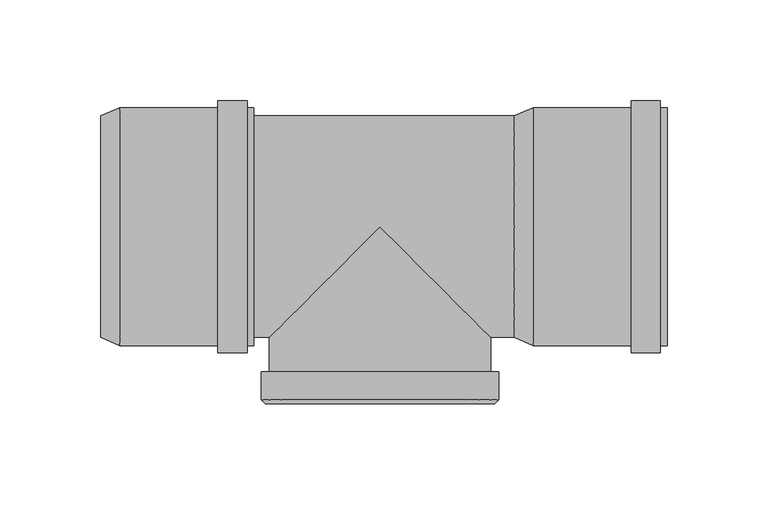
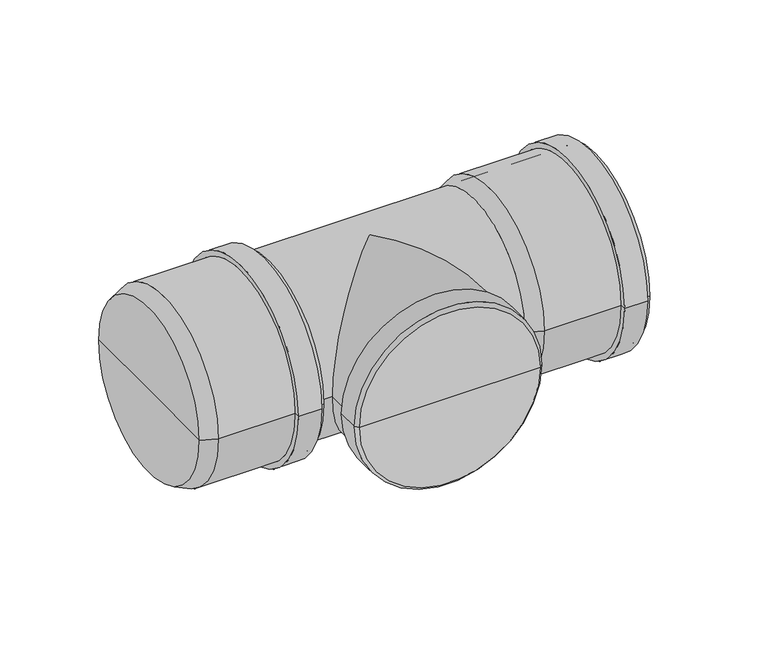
"""IFC4 building model written with IfcOpenShell, lengths in millimetres: pipe fitting geometry, pf_HTRE : pf_HTRE."""

from ifc_helpers import new_model, si_unit, frame, origin, place, context, project, spatial, polyline, circle_curve, ellipse_curve, source, transform, mapped, element, save
from ifc_brep_helpers import plane_surface, cylinder_surface, revolved_surface, advanced_brep


def pipe_fitting_702bc343(model_context):
    return source(origin(), model_context, "Body", "AdvancedBrep", [
        advanced_brep(
        [(66.6, -55.0, 0.0), (66.6, 55.0, 0.0), (76.1, 59.1, 0.0), (76.1, -59.1, 0.0), (66.6, 0.0, 0.0), (142.6, -59.1, 0.0), (142.6, 59.1, 0.0), (142.6, 55.0, 0.0), (142.6, -55.0, 0.0), (139.2, -59.1, 0.0), (139.2, 59.1, 0.0), (139.2, -62.5, 0.0), (139.2, 62.5, 0.0), (124.7, -62.5, 0.0), (124.7, 62.5, 0.0), (124.7, -59.1, 0.0), (124.7, 59.1, 0.0), (76.1, -55.0, 0.0), (76.1, 55.0, 0.0), (76.1, 0.0, 0.0)],
        [
            (0, 1, circle_curve(frame((66.6, 0.0, 0.0), z_axis=(1.0, 0.0, 0.0), x_axis=(0.0, 1.0, 0.0)), 55.0)),
            (1, 2),
            (2, 3, circle_curve(frame((76.1, 0.0, 0.0), z_axis=(-1.0, 0.0, 0.0), x_axis=(0.0, 1.0, 0.0)), 59.1)),
            (3, 0),
            (1, 0, circle_curve(frame((66.6, 0.0, 0.0), z_axis=(1.0, 0.0, 0.0), x_axis=(0.0, 1.0, 0.0)), 55.0)),
            (3, 2, circle_curve(frame((76.1, 0.0, 0.0), z_axis=(-1.0, 0.0, 0.0), x_axis=(0.0, 1.0, 0.0)), 59.1)),
            (4, 1),
            (0, 4),
            (5, 6, circle_curve(frame((142.6, 0.0, 0.0), z_axis=(1.0, 0.0, 0.0), x_axis=(0.0, 1.0, 0.0)), 59.1)),
            (6, 7),
            (7, 8, circle_curve(frame((142.6, 0.0, 0.0), z_axis=(-1.0, 0.0, 0.0), x_axis=(0.0, 1.0, 0.0)), 55.0)),
            (8, 5),
            (6, 5, circle_curve(frame((142.6, 0.0, 0.0), z_axis=(1.0, 0.0, 0.0), x_axis=(0.0, 1.0, 0.0)), 59.1)),
            (8, 7, circle_curve(frame((142.6, 0.0, 0.0), z_axis=(-1.0, 0.0, 0.0), x_axis=(0.0, 1.0, 0.0)), 55.0)),
            (9, 10, circle_curve(frame((139.2, 0.0, 0.0), z_axis=(1.0, 0.0, 0.0), x_axis=(0.0, 1.0, 0.0)), 59.1)),
            (10, 6),
            (5, 9),
            (10, 9, circle_curve(frame((139.2, 0.0, 0.0), z_axis=(1.0, 0.0, 0.0), x_axis=(0.0, 1.0, 0.0)), 59.1)),
            (11, 12, circle_curve(frame((139.2, 0.0, 0.0), z_axis=(1.0, 0.0, 0.0), x_axis=(0.0, 1.0, 0.0)), 62.5)),
            (12, 10),
            (9, 11),
            (12, 11, circle_curve(frame((139.2, 0.0, 0.0), z_axis=(1.0, 0.0, 0.0), x_axis=(0.0, 1.0, 0.0)), 62.5)),
            (13, 14, circle_curve(frame((124.7, 0.0, 0.0), z_axis=(1.0, 0.0, 0.0), x_axis=(0.0, 1.0, 0.0)), 62.5)),
            (14, 12),
            (11, 13),
            (14, 13, circle_curve(frame((124.7, 0.0, 0.0), z_axis=(1.0, 0.0, 0.0), x_axis=(0.0, 1.0, 0.0)), 62.5)),
            (15, 16, circle_curve(frame((124.7, 0.0, 0.0), z_axis=(1.0, 0.0, 0.0), x_axis=(0.0, 1.0, 0.0)), 59.1)),
            (16, 14),
            (13, 15),
            (16, 15, circle_curve(frame((124.7, 0.0, 0.0), z_axis=(1.0, 0.0, 0.0), x_axis=(0.0, 1.0, 0.0)), 59.1)),
            (2, 16),
            (15, 3),
            (17, 18, circle_curve(frame((76.1, 0.0, 0.0), z_axis=(1.0, 0.0, 0.0), x_axis=(0.0, 1.0, 0.0)), 55.0)),
            (18, 19),
            (19, 17),
            (18, 17, circle_curve(frame((76.1, 0.0, 0.0), z_axis=(1.0, 0.0, 0.0), x_axis=(0.0, 1.0, 0.0)), 55.0)),
            (7, 18),
            (17, 8),
        ],
        [
            revolved_surface(polyline([(76.1, 59.1, 0.0), (66.6, 55.0, 0.0)]), (66.6, 0.0, 0.0), (-1.0, 0.0, 0.0)),
            plane_surface(frame((66.6, 0.0, 0.0), z_axis=(-1.0, 0.0, 0.0), x_axis=(0.0, 1.0, 0.0))),
            plane_surface(frame((142.6, 0.0, 0.0), z_axis=(1.0, 0.0, 0.0), x_axis=(0.0, 1.0, 0.0))),
            cylinder_surface(frame((66.6, 0.0, 0.0), z_axis=(-1.0, 0.0, 0.0), x_axis=(0.0, 1.0, 0.0)), 59.1),
            plane_surface(frame((139.2, 0.0, 0.0), z_axis=(1.0, 0.0, 0.0), x_axis=(0.0, 1.0, 0.0))),
            cylinder_surface(frame((66.6, 0.0, 0.0), z_axis=(-1.0, 0.0, 0.0), x_axis=(0.0, 1.0, 0.0)), 62.5),
            plane_surface(frame((124.7, 0.0, 0.0), z_axis=(-1.0, 0.0, 0.0), x_axis=(0.0, 1.0, 0.0))),
            plane_surface(frame((76.1, 0.0, 0.0), z_axis=(1.0, 0.0, 0.0), x_axis=(0.0, 1.0, 0.0))),
            revolved_surface(polyline([(76.1, 55.0, 0.0), (142.6, 55.0, 0.0)]), (66.6, 0.0, 0.0), (-1.0, 0.0, 0.0)),
        ],
        [
            (0, [[1, 2, 3, 4]]),
            (0, [[5, -4, 6, -2]]),
            (1, [[7, -1, 8]]),
            (1, [[-8, -5, -7]]),
            (2, [[9, 10, 11, 12]]),
            (2, [[13, -12, 14, -10]]),
            (3, [[15, 16, -9, 17]]),
            (3, [[18, -17, -13, -16]]),
            (4, [[19, 20, -15, 21]]),
            (4, [[22, -21, -18, -20]]),
            (5, [[23, 24, -19, 25]]),
            (5, [[26, -25, -22, -24]]),
            (6, [[27, 28, -23, 29]]),
            (6, [[30, -29, -26, -28]]),
            (3, [[-3, 31, -27, 32]]),
            (3, [[-6, -32, -30, -31]]),
            (7, [[33, 34, 35]]),
            (7, [[36, -35, -34]]),
            (8, [[-11, 37, -33, 38]]),
            (8, [[-14, -38, -36, -37]]),
        ],
    ),
        advanced_brep(
        [(-138.6, -55.0, 0.0), (-138.6, 55.0, 0.0), (-129.1, 59.1, 0.0), (-129.1, -59.1, 0.0), (-138.6, 0.0, 0.0), (-62.6, -59.1, 0.0), (-62.6, 59.1, 0.0), (-62.6, 55.0, 0.0), (-62.6, -55.0, 0.0), (-66.0, -59.1, 0.0), (-66.0, 59.1, 0.0), (-66.0, -62.5, 0.0), (-66.0, 62.5, 0.0), (-80.5, -62.5, 0.0), (-80.5, 62.5, 0.0), (-80.5, -59.1, 0.0), (-80.5, 59.1, 0.0), (-129.1, -55.0, 0.0), (-129.1, 55.0, 0.0), (-129.1, 0.0, 0.0)],
        [
            (0, 1, circle_curve(frame((-138.6, 0.0, 0.0), z_axis=(1.0, 0.0, 0.0), x_axis=(0.0, 1.0, 0.0)), 55.0)),
            (1, 2),
            (2, 3, circle_curve(frame((-129.1, 0.0, 0.0), z_axis=(-1.0, 0.0, 0.0), x_axis=(0.0, 1.0, 0.0)), 59.1)),
            (3, 0),
            (1, 0, circle_curve(frame((-138.6, 0.0, 0.0), z_axis=(1.0, 0.0, 0.0), x_axis=(0.0, 1.0, 0.0)), 55.0)),
            (3, 2, circle_curve(frame((-129.1, 0.0, 0.0), z_axis=(-1.0, 0.0, 0.0), x_axis=(0.0, 1.0, 0.0)), 59.1)),
            (4, 1),
            (0, 4),
            (5, 6, circle_curve(frame((-62.6, 0.0, 0.0), z_axis=(1.0, 0.0, 0.0), x_axis=(0.0, 1.0, 0.0)), 59.1)),
            (6, 7),
            (7, 8, circle_curve(frame((-62.6, 0.0, 0.0), z_axis=(-1.0, 0.0, 0.0), x_axis=(0.0, 1.0, 0.0)), 55.0)),
            (8, 5),
            (6, 5, circle_curve(frame((-62.6, 0.0, 0.0), z_axis=(1.0, 0.0, 0.0), x_axis=(0.0, 1.0, 0.0)), 59.1)),
            (8, 7, circle_curve(frame((-62.6, 0.0, 0.0), z_axis=(-1.0, 0.0, 0.0), x_axis=(0.0, 1.0, 0.0)), 55.0)),
            (9, 10, circle_curve(frame((-66.0, 0.0, 0.0), z_axis=(1.0, 0.0, 0.0), x_axis=(0.0, 1.0, 0.0)), 59.1)),
            (10, 6),
            (5, 9),
            (10, 9, circle_curve(frame((-66.0, 0.0, 0.0), z_axis=(1.0, 0.0, 0.0), x_axis=(0.0, 1.0, 0.0)), 59.1)),
            (11, 12, circle_curve(frame((-66.0, 0.0, 0.0), z_axis=(1.0, 0.0, 0.0), x_axis=(0.0, 1.0, 0.0)), 62.5)),
            (12, 10),
            (9, 11),
            (12, 11, circle_curve(frame((-66.0, 0.0, 0.0), z_axis=(1.0, 0.0, 0.0), x_axis=(0.0, 1.0, 0.0)), 62.5)),
            (13, 14, circle_curve(frame((-80.5, 0.0, 0.0), z_axis=(1.0, 0.0, 0.0), x_axis=(0.0, 1.0, 0.0)), 62.5)),
            (14, 12),
            (11, 13),
            (14, 13, circle_curve(frame((-80.5, 0.0, 0.0), z_axis=(1.0, 0.0, 0.0), x_axis=(0.0, 1.0, 0.0)), 62.5)),
            (15, 16, circle_curve(frame((-80.5, 0.0, 0.0), z_axis=(1.0, 0.0, 0.0), x_axis=(0.0, 1.0, 0.0)), 59.1)),
            (16, 14),
            (13, 15),
            (16, 15, circle_curve(frame((-80.5, 0.0, 0.0), z_axis=(1.0, 0.0, 0.0), x_axis=(0.0, 1.0, 0.0)), 59.1)),
            (2, 16),
            (15, 3),
            (17, 18, circle_curve(frame((-129.1, 0.0, 0.0), z_axis=(1.0, 0.0, 0.0), x_axis=(0.0, 1.0, 0.0)), 55.0)),
            (18, 19),
            (19, 17),
            (18, 17, circle_curve(frame((-129.1, 0.0, 0.0), z_axis=(1.0, 0.0, 0.0), x_axis=(0.0, 1.0, 0.0)), 55.0)),
            (7, 18),
            (17, 8),
        ],
        [
            revolved_surface(polyline([(-129.1, 59.1, 0.0), (-138.6, 55.0, 0.0)]), (-138.6, 0.0, 0.0), (-1.0, 0.0, 0.0)),
            plane_surface(frame((-138.6, 0.0, 0.0), z_axis=(-1.0, 0.0, 0.0), x_axis=(0.0, 1.0, 0.0))),
            plane_surface(frame((-62.6, 0.0, 0.0), z_axis=(1.0, 0.0, 0.0), x_axis=(0.0, 1.0, 0.0))),
            cylinder_surface(frame((-138.6, 0.0, 0.0), z_axis=(-1.0, 0.0, 0.0), x_axis=(0.0, 1.0, 0.0)), 59.1),
            plane_surface(frame((-66.0, 0.0, 0.0), z_axis=(1.0, 0.0, 0.0), x_axis=(0.0, 1.0, 0.0))),
            cylinder_surface(frame((-138.6, 0.0, 0.0), z_axis=(-1.0, 0.0, 0.0), x_axis=(0.0, 1.0, 0.0)), 62.5),
            plane_surface(frame((-80.5, 0.0, 0.0), z_axis=(-1.0, 0.0, 0.0), x_axis=(0.0, 1.0, 0.0))),
            plane_surface(frame((-129.1, 0.0, 0.0), z_axis=(1.0, 0.0, 0.0), x_axis=(0.0, 1.0, 0.0))),
            revolved_surface(polyline([(-129.1, 55.0, 0.0), (-62.599999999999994, 55.0, 0.0)]), (-138.6, 0.0, 0.0), (-1.0, 0.0, 0.0)),
        ],
        [
            (0, [[1, 2, 3, 4]]),
            (0, [[5, -4, 6, -2]]),
            (1, [[7, -1, 8]]),
            (1, [[-8, -5, -7]]),
            (2, [[9, 10, 11, 12]]),
            (2, [[13, -12, 14, -10]]),
            (3, [[15, 16, -9, 17]]),
            (3, [[18, -17, -13, -16]]),
            (4, [[19, 20, -15, 21]]),
            (4, [[22, -21, -18, -20]]),
            (5, [[23, 24, -19, 25]]),
            (5, [[26, -25, -22, -24]]),
            (6, [[27, 28, -23, 29]]),
            (6, [[30, -29, -26, -28]]),
            (3, [[-3, 31, -27, 32]]),
            (3, [[-6, -32, -30, -31]]),
            (7, [[33, 34, 35]]),
            (7, [[36, -35, -34]]),
            (8, [[-11, 37, -33, 38]]),
            (8, [[-14, -38, -36, -37]]),
        ],
    ),
        advanced_brep(
        [(0.0, -83.5, 0.0), (55.0, -83.5, 0.0), (-55.0, -83.5, 0.0), (-56.8547233, -87.9866797, 0.0), (56.8547233, -87.9866797, 0.0), (0.0, -87.9866797, 0.0), (-59.0, -85.841403, 0.0), (59.0, -85.841403, 0.0), (-59.0, -71.91835, 0.0), (59.0, -71.91835, 0.0), (-55.0, -71.91835, 0.0), (55.0, -71.91835, 0.0)],
        [
            (0, 1),
            (1, 2, circle_curve(frame((0.0, -83.5, 0.0), z_axis=(0.0, 1.0, 0.0), x_axis=(1.0, 0.0, 0.0)), 55.0)),
            (2, 0),
            (2, 1, circle_curve(frame((0.0, -83.5, 0.0), z_axis=(0.0, 1.0, 0.0), x_axis=(1.0, 0.0, 0.0)), 55.0)),
            (3, 4, circle_curve(frame((0.0, -87.9866797, 0.0), z_axis=(0.0, -1.0, 0.0), x_axis=(1.0, 0.0, 0.0)), 56.8547233)),
            (4, 5),
            (5, 3),
            (4, 3, circle_curve(frame((0.0, -87.9866797, 0.0), z_axis=(0.0, -1.0, 0.0), x_axis=(1.0, 0.0, 0.0)), 56.8547233)),
            (6, 7, circle_curve(frame((0.0, -85.841403, 0.0), z_axis=(0.0, -1.0, 0.0), x_axis=(1.0, 0.0, 0.0)), 59.0)),
            (7, 4),
            (3, 6),
            (7, 6, circle_curve(frame((0.0, -85.841403, 0.0), z_axis=(0.0, -1.0, 0.0), x_axis=(1.0, 0.0, 0.0)), 59.0)),
            (8, 9, circle_curve(frame((0.0, -71.91835, 0.0), z_axis=(0.0, -1.0, 0.0), x_axis=(1.0, 0.0, 0.0)), 59.0)),
            (9, 7),
            (6, 8),
            (9, 8, circle_curve(frame((0.0, -71.91835, 0.0), z_axis=(0.0, -1.0, 0.0), x_axis=(1.0, 0.0, 0.0)), 59.0)),
            (10, 11, circle_curve(frame((0.0, -71.91835, 0.0), z_axis=(0.0, -1.0, 0.0), x_axis=(1.0, 0.0, 0.0)), 55.0)),
            (11, 9),
            (8, 10),
            (11, 10, circle_curve(frame((0.0, -71.91835, 0.0), z_axis=(0.0, -1.0, 0.0), x_axis=(1.0, 0.0, 0.0)), 55.0)),
            (1, 11),
            (10, 2),
        ],
        [
            plane_surface(frame((0.0, -83.5, 0.0), z_axis=(0.0, 1.0, 0.0), x_axis=(1.0, 0.0, 0.0))),
            plane_surface(frame((0.0, -87.9866797, 0.0), z_axis=(0.0, -1.0, 0.0), x_axis=(1.0, 0.0, 0.0))),
            revolved_surface(polyline([(56.8547233, -87.9866797, 0.0), (59.0, -85.841403, 0.0)]), (0.0, 0.0, 0.0), (0.0, 1.0, 0.0)),
            cylinder_surface(frame((0.0, 0.0, 0.0), z_axis=(0.0, 1.0, 0.0), x_axis=(1.0, 0.0, 0.0)), 59.0),
            plane_surface(frame((0.0, -71.91835, 0.0), z_axis=(0.0, 1.0, 0.0), x_axis=(1.0, 0.0, 0.0))),
            revolved_surface(polyline([(55.0, -71.91835, 0.0), (55.0, -83.5, 0.0)]), (0.0, 0.0, 0.0), (0.0, 1.0, 0.0)),
        ],
        [
            (0, [[1, 2, 3]]),
            (0, [[-3, 4, -1]]),
            (1, [[5, 6, 7]]),
            (1, [[8, -7, -6]]),
            (2, [[9, 10, -5, 11]]),
            (2, [[12, -11, -8, -10]]),
            (3, [[13, 14, -9, 15]]),
            (3, [[16, -15, -12, -14]]),
            (4, [[17, 18, -13, 19]]),
            (4, [[20, -19, -16, -18]]),
            (5, [[-2, 21, -17, 22]]),
            (5, [[-4, -22, -20, -21]]),
        ],
    ),
        advanced_brep(
        [(-62.6, -55.0, 0.0), (-62.6, 55.0, 0.0), (66.6, -55.0, 0.0), (66.6, 55.0, 0.0), (-55.0, -55.0, 0.0), (0.0, 0.0, 55.0), (55.0, -55.0, 0.0), (0.0, 0.0, -55.0), (-55.0, -83.5, 0.0), (55.0, -83.5, 0.0)],
        [
            (0, 1, circle_curve(frame((-62.6, 0.0, 0.0), z_axis=(-1.0, 0.0, 0.0), x_axis=(0.0, 1.0, 0.0)), 55.0)),
            (1, 0, circle_curve(frame((-62.6, 0.0, 0.0), z_axis=(-1.0, 0.0, 0.0), x_axis=(0.0, 1.0, 0.0)), 55.0)),
            (2, 3, circle_curve(frame((66.6, 0.0, 0.0), z_axis=(1.0, 0.0, 0.0), x_axis=(0.0, 1.0, 0.0)), 55.0)),
            (3, 2, circle_curve(frame((66.6, 0.0, 0.0), z_axis=(1.0, 0.0, 0.0), x_axis=(0.0, 1.0, 0.0)), 55.0)),
            (0, 4),
            (4, 5, ellipse_curve(frame((0.0, 0.0, 0.0), z_axis=(-0.7071067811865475, 0.7071067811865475, 0.0), x_axis=(-0.7071067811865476, -0.7071067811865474, 0.0)), 77.7817459, 55.0)),
            (5, 6, ellipse_curve(frame((0.0, 0.0, 0.0), z_axis=(0.7071067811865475, 0.7071067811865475, 0.0), x_axis=(-0.7071067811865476, 0.7071067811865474, 0.0)), 77.7817459, 55.0)),
            (6, 2),
            (3, 1),
            (6, 7, ellipse_curve(frame((0.0, 0.0, 0.0), z_axis=(0.7071067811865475, 0.7071067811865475, 0.0), x_axis=(-0.7071067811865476, 0.7071067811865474, 0.0)), 77.7817459, 55.0)),
            (7, 4, ellipse_curve(frame((0.0, 0.0, 0.0), z_axis=(-0.7071067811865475, 0.7071067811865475, 0.0), x_axis=(-0.7071067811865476, -0.7071067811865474, 0.0)), 77.7817459, 55.0)),
            (8, 9, circle_curve(frame((0.0, -83.5, 0.0), z_axis=(0.0, -1.0, 0.0), x_axis=(1.0, 0.0, 0.0)), 55.0)),
            (9, 8, circle_curve(frame((0.0, -83.5, 0.0), z_axis=(0.0, -1.0, 0.0), x_axis=(1.0, 0.0, 0.0)), 55.0)),
            (9, 6),
            (4, 8),
        ],
        [
            plane_surface(frame((-62.6, 0.0, 0.0), z_axis=(-1.0, 0.0, 0.0), x_axis=(0.0, 0.0, 1.0))),
            plane_surface(frame((66.6, 0.0, 0.0), z_axis=(1.0, 0.0, 0.0), x_axis=(0.0, 0.0, 1.0))),
            cylinder_surface(frame((-62.6, 0.0, 0.0), z_axis=(-1.0, 0.0, 0.0), x_axis=(0.0, 1.0, 0.0)), 55.0),
            plane_surface(frame((0.0, -83.5, 0.0), z_axis=(0.0, -1.0, 0.0), x_axis=(0.0, 0.0, 1.0))),
            cylinder_surface(frame((0.0, 0.0, 0.0), z_axis=(0.0, 1.0, 0.0), x_axis=(1.0, 0.0, 0.0)), 55.0),
        ],
        [
            (0, [[1, 2]]),
            (1, [[3, 4]]),
            (2, [[-1, 5, 6, 7, 8, -4, 9]]),
            (2, [[-2, -9, -3, -8, 10, 11, -5]]),
            (3, [[12, 13]]),
            (4, [[-13, 14, -7, -6, 15]]),
            (4, [[-12, -15, -11, -10, -14]]),
        ],
    ),
    ])


if __name__ == "__main__":
    model = new_model("IFC4")
    model_context = context("Model", 3, world=origin())
    ifc_project = project(units=[si_unit("LENGTHUNIT", "METRE", prefix="MILLI")], contexts=[model_context])
    site = spatial("IfcSite", under=ifc_project)
    building = spatial("IfcBuilding", under=site)
    placement = place(None, origin())
    pipe_fitting_shape = pipe_fitting_702bc343(model_context)
    element("IfcPipeFitting", 1, ObjectType="pf_HTRE : pf_HTRE", at=placement, inside=building, context=model_context, shape_type="MappedRepresentation", body=[
        mapped(pipe_fitting_shape, transform((0.0, 0.0, 0.0), x_axis=(1.0, 0.0, 0.0), y_axis=(0.0, 1.0, 0.0), z_axis=(0.0, 0.0, 1.0))),
    ])
    save(model, "model.ifc")
